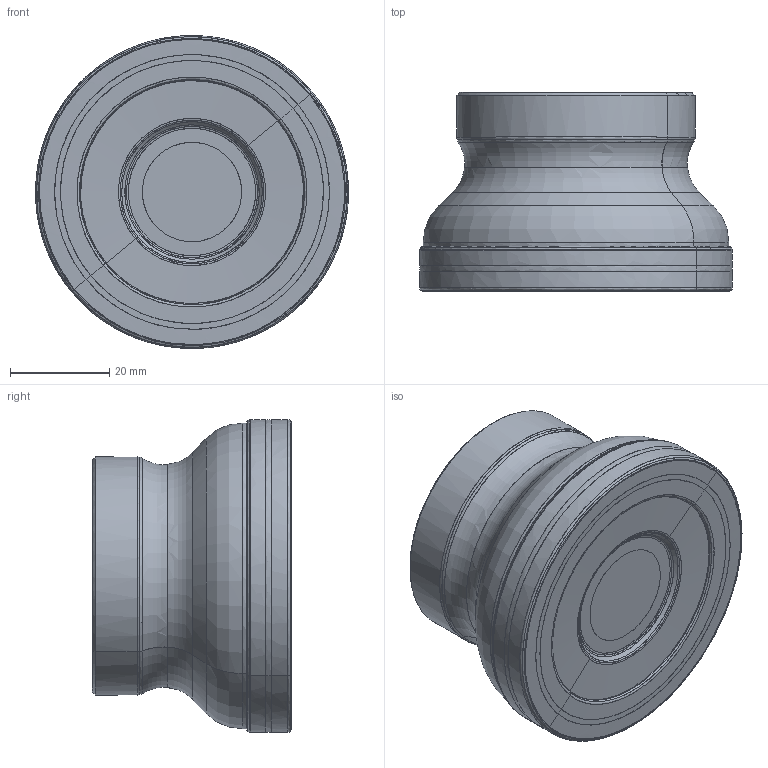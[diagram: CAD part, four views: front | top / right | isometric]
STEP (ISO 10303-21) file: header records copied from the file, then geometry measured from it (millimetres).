
FILE_DESCRIPTION(('OPEN MIND Model'),'2;1');
FILE_NAME('OPEN MIND Shape Model','2018-12-13T09:24:58',('Author'),( 'hyperCAD-S '),'hyperCAD-S STEP processor 6.6','hyperCAD-S 1.0' ,'Unknown');
FILE_SCHEMA(('AUTOMOTIVE_DESIGN { 1 2 10303 214 -1 1 5 4 }'));
Length unit declared in the file: millimetre
Products named in the file (67): Product 1; Product 1.1; Product 1.2; Product 1.3; Product 1.4; Product 1.5; Product 1.6; Product 1.7; Product 1.8; Product 1.9; Product 1.10; Product 1.11; Product 1.12; Product 1.13; Product 1.14; Product 1.15; Product 1.16; Product 1.17; Product 1.18; Product 1.19; Product 1.20; Product 1.21; Product 1.22; Product 1.23; Product 1.24; Product 1.25; Product 1.26; Product 1.27; Product 1.28; Product 1.29; Product 1.30; Product 1.31; Product 1.32; Product 1.33; Product 1.34; Product 1.35; Product 1.36; Product 1.37; Product 1.38; Product 1.39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
Assembly tree (66 placements, depth 2):
  Product 1
    Product 1.1
    Product 1.2
    Product 1.3
    Product 1.4
    Product 1.5
    Product 1.6
    Product 1.7
    Product 1.8
    Product 1.9
    Product 1.10
    Product 1.11
    Product 1.12
    Product 1.13
    Product 1.14
    Product 1.15
    Product 1.16
    Product 1.17
    Product 1.18
    Product 1.19
    Product 1.20
    Product 1.21
    Product 1.22
    Product 1.23
    Product 1.24
    Product 1.25
    Product 1.26
    Product 1.27
    Product 1.28
    Product 1.29
    Product 1.30
    Product 1.31
    Product 1.32
    Product 1.33
    Product 1.34
    Product 1.35
    Product 1.36
    Product 1.37
    Product 1.38
    Product 1.39
    Product 1.40
    Product 1.41
    Product 1.42
    Product 1.43
    Product 1.44
    Product 1.45
    Product 1.46
    Product 1.47
    Product 1.48
    Product 1.49
    Product 1.50
    Product 1.51
    Product 1.52
    Product 1.53
    Product 1.54
    Product 1.55
    Product 1.56
    Product 1.57
    Product 1.58
    Product 1.59
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Bounding box: 63 x 40.07 x 62.99 mm (x, y, z)
Surface area: 12226.3 mm2 (no closed solid volume)
Topology: 0 solids, 66 shells, 66 faces, 270 edges, 270 vertices
Faces by surface type: bspline 30, revolution 28, plane 6, cylinder 2
Entity records: 33351 total; most frequent: CARTESIAN_POINT 29422, B_SPLINE_CURVE_WITH_KNOTS 550, ORIENTED_EDGE 270, EDGE_CURVE 270, VERTEX_POINT 270, SURFACE_CURVE 270, PCURVE 270, DEFINITIONAL_REPRESENTATION 270
